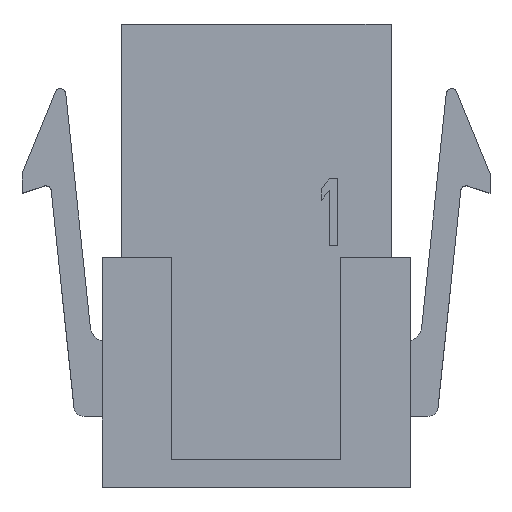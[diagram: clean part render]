
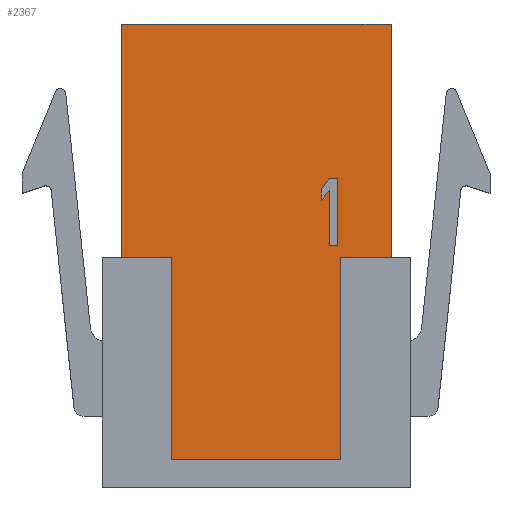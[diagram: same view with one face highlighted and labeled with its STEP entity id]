
A CAD part, top view. The second image highlights one B-rep face of the part: STEP entity #2367.
In plain terms, the highlighted planar face has unit normal (0, 0, 1).
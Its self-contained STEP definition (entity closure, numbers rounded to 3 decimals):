
#1=DIRECTION('',(0.,-1.,0.));
#2=VECTOR('',#1,8.51);
#3=CARTESIAN_POINT('',(-4.92,8.445,3.425));
#4=LINE('',#3,#2);
#49=DIRECTION('',(1.,0.,0.));
#50=VECTOR('',#49,1.83);
#51=CARTESIAN_POINT('',(-4.92,-0.065,3.425));
#52=LINE('',#51,#50);
#53=DIRECTION('',(1.,0.,0.));
#54=VECTOR('',#53,9.85);
#55=CARTESIAN_POINT('',(-4.92,8.445,3.425));
#56=LINE('',#55,#54);
#57=DIRECTION('',(-1.,0.,0.));
#58=VECTOR('',#57,1.84);
#59=CARTESIAN_POINT('',(4.93,-0.065,3.425));
#60=LINE('',#59,#58);
#61=DIRECTION('',(0.,1.,0.));
#62=VECTOR('',#61,7.36);
#63=CARTESIAN_POINT('',(3.09,-7.425,3.425));
#64=LINE('',#63,#62);
#65=DIRECTION('',(1.,0.,0.));
#66=VECTOR('',#65,6.18);
#67=CARTESIAN_POINT('',(-3.09,-7.425,3.425));
#68=LINE('',#67,#66);
#69=DIRECTION('',(0.,-1.,0.));
#70=VECTOR('',#69,7.36);
#71=CARTESIAN_POINT('',(-3.09,-0.065,3.425));
#72=LINE('',#71,#70);
#73=DIRECTION('',(0.,1.,0.));
#74=VECTOR('',#73,2.45);
#75=CARTESIAN_POINT('',(2.993,0.36,3.425));
#76=LINE('',#75,#74);
#77=DIRECTION('',(-1.,0.,0.));
#78=VECTOR('',#77,0.306);
#79=CARTESIAN_POINT('',(2.993,2.81,3.425));
#80=LINE('',#79,#78);
#81=DIRECTION('',(-0.643,-0.766,0.));
#82=VECTOR('',#81,0.476);
#83=CARTESIAN_POINT('',(2.686,2.81,3.425));
#84=LINE('',#83,#82);
#85=DIRECTION('',(0.,-1.,0.));
#86=VECTOR('',#85,0.417);
#87=CARTESIAN_POINT('',(2.38,2.445,3.425));
#88=LINE('',#87,#86);
#89=DIRECTION('',(0.643,0.766,0.));
#90=VECTOR('',#89,0.476);
#91=CARTESIAN_POINT('',(2.38,2.028,3.425));
#92=LINE('',#91,#90);
#93=DIRECTION('',(0.,-1.,0.));
#94=VECTOR('',#93,2.033);
#95=CARTESIAN_POINT('',(2.686,2.393,3.425));
#96=LINE('',#95,#94);
#97=DIRECTION('',(1.,0.,0.));
#98=VECTOR('',#97,0.306);
#99=CARTESIAN_POINT('',(2.686,0.36,3.425));
#100=LINE('',#99,#98);
#121=DIRECTION('',(0.,-1.,0.));
#122=VECTOR('',#121,8.51);
#123=CARTESIAN_POINT('',(4.93,8.445,3.425));
#124=LINE('',#123,#122);
#1728=CARTESIAN_POINT('',(-4.92,8.445,3.425));
#1730=VERTEX_POINT('',#1728);
#1732=CARTESIAN_POINT('',(4.93,8.445,3.425));
#1734=VERTEX_POINT('',#1732);
#1879=CARTESIAN_POINT('',(-4.92,-0.065,3.425));
#1880=CARTESIAN_POINT('',(-3.09,-0.065,3.425));
#1881=VERTEX_POINT('',#1879);
#1882=VERTEX_POINT('',#1880);
#1883=CARTESIAN_POINT('',(-3.09,-7.425,3.425));
#1884=VERTEX_POINT('',#1883);
#1885=CARTESIAN_POINT('',(3.09,-7.425,3.425));
#1886=VERTEX_POINT('',#1885);
#1887=CARTESIAN_POINT('',(3.09,-0.065,3.425));
#1888=VERTEX_POINT('',#1887);
#1889=CARTESIAN_POINT('',(4.93,-0.065,3.425));
#1890=VERTEX_POINT('',#1889);
#2089=CARTESIAN_POINT('',(2.993,0.36,3.425));
#2090=CARTESIAN_POINT('',(2.993,2.81,3.425));
#2091=VERTEX_POINT('',#2089);
#2092=VERTEX_POINT('',#2090);
#2093=CARTESIAN_POINT('',(2.686,2.81,3.425));
#2094=VERTEX_POINT('',#2093);
#2095=CARTESIAN_POINT('',(2.38,2.445,3.425));
#2096=VERTEX_POINT('',#2095);
#2097=CARTESIAN_POINT('',(2.38,2.028,3.425));
#2098=VERTEX_POINT('',#2097);
#2099=CARTESIAN_POINT('',(2.686,2.393,3.425));
#2100=VERTEX_POINT('',#2099);
#2101=CARTESIAN_POINT('',(2.686,0.36,3.425));
#2102=VERTEX_POINT('',#2101);
#2329=CARTESIAN_POINT('',(-4.92,8.445,3.425));
#2330=DIRECTION('',(0.,0.,1.));
#2331=DIRECTION('',(0.,-1.,0.));
#2332=AXIS2_PLACEMENT_3D('',#2329,#2330,#2331);
#2333=PLANE('',#2332);
#2335=ORIENTED_EDGE('',*,*,#2334,.F.);
#2336=ORIENTED_EDGE('',*,*,#2300,.F.);
#2338=ORIENTED_EDGE('',*,*,#2337,.T.);
#2340=ORIENTED_EDGE('',*,*,#2339,.T.);
#2342=ORIENTED_EDGE('',*,*,#2341,.T.);
#2344=ORIENTED_EDGE('',*,*,#2343,.F.);
#2346=ORIENTED_EDGE('',*,*,#2345,.F.);
#2348=ORIENTED_EDGE('',*,*,#2347,.F.);
#2349=EDGE_LOOP('',(#2335,#2336,#2338,#2340,#2342,#2344,#2346,#2348));
#2350=FACE_OUTER_BOUND('',#2349,.F.);
#2352=ORIENTED_EDGE('',*,*,#2351,.T.);
#2354=ORIENTED_EDGE('',*,*,#2353,.T.);
#2356=ORIENTED_EDGE('',*,*,#2355,.T.);
#2358=ORIENTED_EDGE('',*,*,#2357,.T.);
#2360=ORIENTED_EDGE('',*,*,#2359,.T.);
#2362=ORIENTED_EDGE('',*,*,#2361,.T.);
#2364=ORIENTED_EDGE('',*,*,#2363,.T.);
#2365=EDGE_LOOP('',(#2352,#2354,#2356,#2358,#2360,#2362,#2364));
#2366=FACE_BOUND('',#2365,.F.);
#2367=ADVANCED_FACE('',(#2350,#2366),#2333,.T.);
#2300=EDGE_CURVE('',#1730,#1881,#4,.T.);
#2334=EDGE_CURVE('',#1881,#1882,#52,.T.);
#2337=EDGE_CURVE('',#1730,#1734,#56,.T.);
#2339=EDGE_CURVE('',#1734,#1890,#124,.T.);
#2341=EDGE_CURVE('',#1890,#1888,#60,.T.);
#2343=EDGE_CURVE('',#1886,#1888,#64,.T.);
#2345=EDGE_CURVE('',#1884,#1886,#68,.T.);
#2347=EDGE_CURVE('',#1882,#1884,#72,.T.);
#2351=EDGE_CURVE('',#2091,#2092,#76,.T.);
#2353=EDGE_CURVE('',#2092,#2094,#80,.T.);
#2355=EDGE_CURVE('',#2094,#2096,#84,.T.);
#2357=EDGE_CURVE('',#2096,#2098,#88,.T.);
#2359=EDGE_CURVE('',#2098,#2100,#92,.T.);
#2361=EDGE_CURVE('',#2100,#2102,#96,.T.);
#2363=EDGE_CURVE('',#2102,#2091,#100,.T.);
